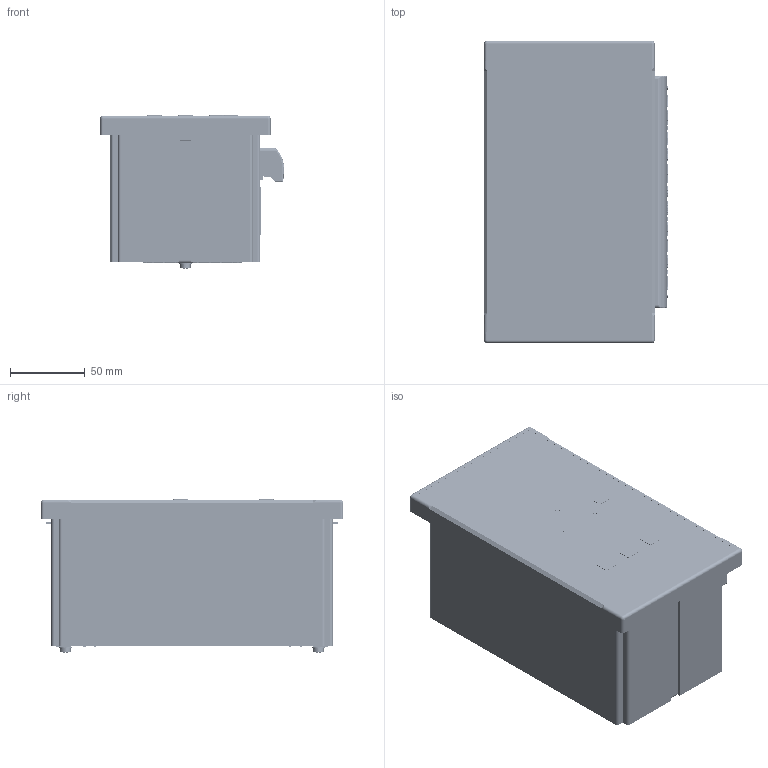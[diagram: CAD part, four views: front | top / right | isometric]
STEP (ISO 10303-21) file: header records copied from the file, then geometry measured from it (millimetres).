
FILE_DESCRIPTION (( 'STEP AP214' ), '1' );
FILE_NAME ('6LD.248.1088.STEP', '2022-09-22T03:24:04', ( '' ), ( '' ), 'SwSTEP 2.0', 'SolidWorks 2018', '' );
FILE_SCHEMA (( 'AUTOMOTIVE_DESIGN' ));
Length unit declared in the file: millimetre
Products named in the file (1): 6LD.248.1088
Bounding box: 122.9 x 202 x 102.42 mm (x, y, z)
Volume: 406114.5 mm3; surface area: 371802.9 mm2
Topology: 59 solids, 59 shells, 9683 faces, 26492 edges, 17380 vertices
Faces by surface type: plane 6960, cylinder 2000, bspline 601, cone 114, sphere 8
Entity records: 433425 total; most frequent: CARTESIAN_POINT 81751, ORIENTED_EDGE 52934, DIRECTION 47270, EDGE_CURVE 26467, VECTOR 20408, LINE 20408, VERTEX_POINT 17379, AXIS2_PLACEMENT_3D 13431
